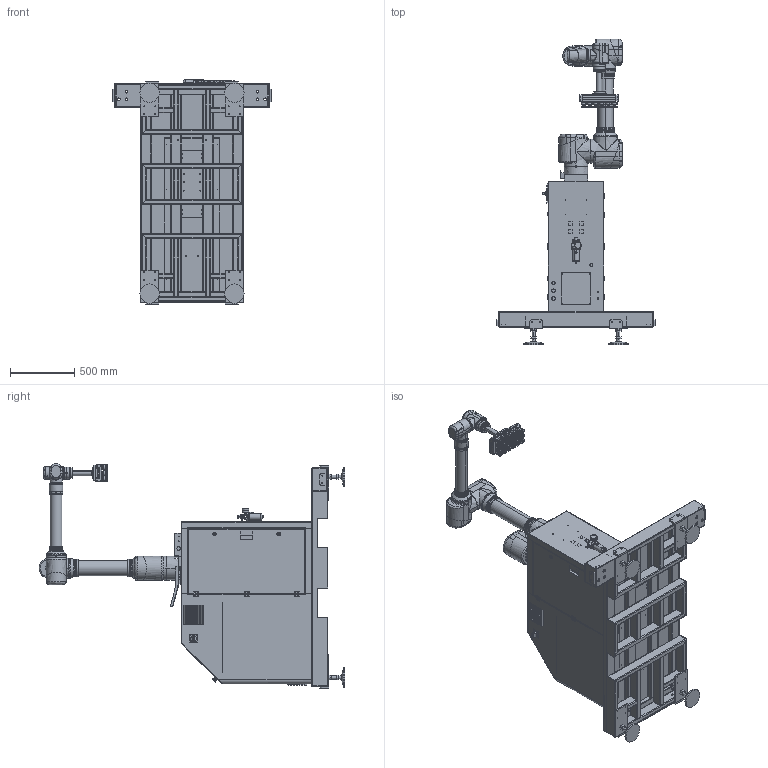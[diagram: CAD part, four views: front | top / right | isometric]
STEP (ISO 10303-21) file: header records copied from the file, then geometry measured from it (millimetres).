
FILE_DESCRIPTION (( 'STEP AP214' ), '1' );
FILE_NAME ('WP20S.STEP', '2025-03-17T06:33:59', ( '' ), ( '' ), 'SwSTEP 2.0', 'SolidWorks 2018', '' );
FILE_SCHEMA (( 'AUTOMOTIVE_DESIGN' ));
Length unit declared in the file: millimetre
Products named in the file (2): WP20S
Bounding box: 1230 x 2379.22 x 1748 mm (x, y, z)
Surface area: 18088841.7 mm2 (no closed solid volume)
Topology: 0 solids, 281 shells, 1915 faces, 8249 edges, 6436 vertices
Faces by surface type: bspline 785, plane 613, cylinder 428, cone 71, torus 18
Entity records: 159363 total; most frequent: CARTESIAN_POINT 80544, ORIENTED_EDGE 11330, DIRECTION 9434, EDGE_CURVE 8226, VERTEX_POINT 6436, AXIS2_PLACEMENT_3D 3223, VECTOR 2988, LINE 2988
